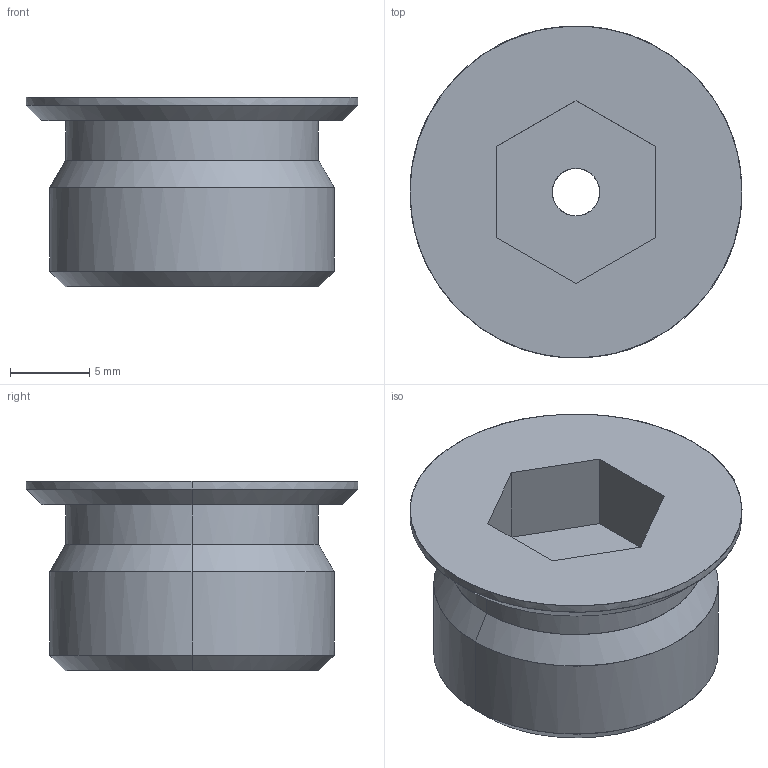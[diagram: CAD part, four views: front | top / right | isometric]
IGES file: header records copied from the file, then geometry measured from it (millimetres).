
Global section: file name: E:\UnigraphicsGraphicData\MISUMI_PRESS-PARTS\IGES\3d_mswzh18_00482_r00.igs; native system: NX V5.0; preprocessor: UGS NX IGES V5.0; author: MISUMI; date: 20110105.161528; units: millimetre
Bounding box: 21 x 21 x 12 mm (x, y, z)
Surface area: 1584.7 mm2 (no closed solid volume)
Topology: 0 solids, 0 shells, 24 faces, 140 edges, 140 vertices
Faces by surface type: bspline 24
